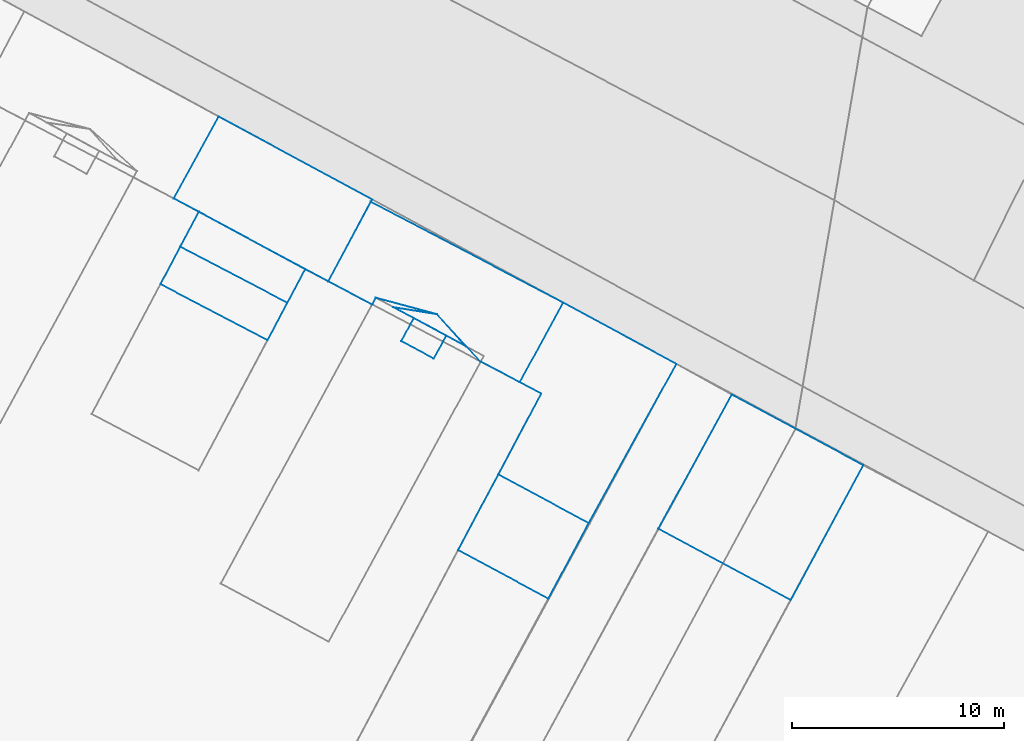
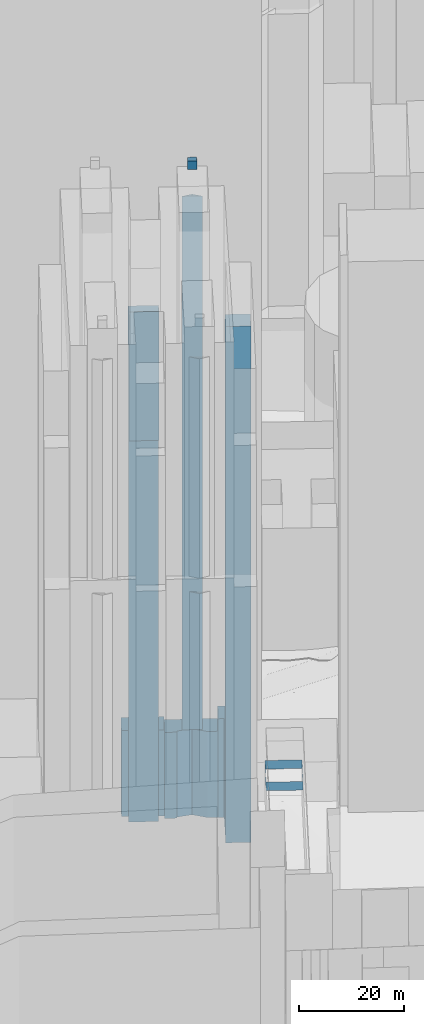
# Not in any storey, part 21 of 76: 9 walls.
"""IFC2X3 model written with IfcOpenShell, lengths in metres."""

from ifc_helpers import new_model, si_unit, frame, origin_with_axes, place, context, subcontext, project, faceted_brep, element, save


model = new_model("IFC2X3")

# Units and contexts
model_context = context("Model", 3, precision=1e-05, world=origin_with_axes())
body_context = subcontext(model_context, "Body", "Model", "MODEL_VIEW")
ifc_project = project(units=[si_unit("AREAUNIT", "SQUARE_METRE"), si_unit("LENGTHUNIT", "METRE")], contexts=[model_context])

# Walls
wall_1_placement = place(None, frame((119.9102886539, 165.3278186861, 111.6038647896), z_axis=(0.0, 0.0, 1.0), x_axis=(1.0, 0.0, 0.0)))
element("IfcWall", 1, at=wall_1_placement, Name="Mur 0", context=body_context, shape_type="Brep", body=[
    faceted_brep([(5.0364911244, -2.6393368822, 30.0), (0.0, 0.0, 30.0), (5.0364911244, -2.6393368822, 0.0), (0.0, 0.0, 0.0), (5.9698792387, -0.874337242, 30.0), (5.9698792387, -0.874337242, 0.0), (0.9333889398, 1.7649989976, 30.0), (0.9333889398, 1.7649989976, 0.0)], [[[0, 1, 2]], [[2, 1, 3]], [[4, 0, 5]], [[5, 0, 2]], [[1, 6, 3]], [[3, 6, 7]], [[6, 4, 7]], [[7, 4, 5]]]),
])
wall_2_placement = place(None, frame((120.8436775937, 167.0928176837, 21.6386341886), z_axis=(0.0, 0.0, 1.0), x_axis=(1.0, 0.0, 0.0)))
element("IfcWall", 2, at=wall_2_placement, Name="Mur 0", context=body_context, shape_type="Brep", body=[
    faceted_brep([(5.0364902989, -2.6393362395, 90.0), (0.0, 0.0, 90.0), (5.0364902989, -2.6393362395, 0.0), (0.0, 0.0, 0.0), (5.8792260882, -1.0641279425, 90.0), (5.8792260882, -1.0641279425, 0.0), (0.8757243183, 1.6422044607, 90.0), (0.8757243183, 1.6422044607, 0.0)], [[[0, 1, 2]], [[2, 1, 3]], [[4, 0, 5]], [[5, 0, 2]], [[1, 6, 3]], [[3, 6, 7]], [[6, 4, 7]], [[7, 4, 5]]]),
])
wall_3_placement = place(None, frame((120.5302679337, 169.3651384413, 21.6421787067), z_axis=(0.0, 0.0, 1.0), x_axis=(1.0, 0.0, 0.0)))
element("IfcWall", 3, at=wall_3_placement, Name="Mur 0", context=body_context, shape_type="Brep", body=[
    faceted_brep([(7.2712718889, -3.9012342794, 20.0), (0.0, 0.0, 20.0), (7.2712718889, -3.9012342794, 0.0), (0.0, 0.0, 0.0), (9.3368747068, -0.0469587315, 20.0), (9.3368747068, -0.0469587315, 0.0), (2.1162476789, 3.8548618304, 20.0), (2.1162476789, 3.8548618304, 0.0)], [[[0, 1, 2]], [[2, 1, 3]], [[4, 0, 5]], [[5, 0, 2]], [[1, 6, 3]], [[3, 6, 7]], [[6, 4, 7]], [[7, 4, 5]]]),
])
wall_4_placement = place(None, frame((127.8015398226, 165.4639041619, 21.0444509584), z_axis=(0.0, 0.0, 1.0), x_axis=(1.0, 0.0, 0.0)))
element("IfcWall", 4, at=wall_4_placement, Name="Mur 0", context=body_context, shape_type="Brep", body=[
    faceted_brep([(2.0724819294, -1.0972490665, 20.0), (0.0, 0.0, 20.0), (2.0724819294, -1.0972490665, 0.0), (0.0, 0.0, 0.0), (2.2459900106, -0.7732678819, 20.0), (2.2459900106, -0.7732678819, 0.0), (5.12513906, -1.5502808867, 20.0), (5.12513906, -1.5502808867, 0.0), (7.1770165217, -3.7801977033, 20.0), (7.1770165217, -3.7801977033, 0.0), (9.0200620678, -4.746883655, 20.0), (9.0200620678, -4.746883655, 0.0), (11.0616303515, -1.0039073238, 20.0), (11.0616303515, -1.0039073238, 0.0), (2.0078098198, 3.7425815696, 20.0), (2.0078098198, 3.7425815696, 0.0)], [[[0, 1, 2]], [[2, 1, 3]], [[4, 0, 5]], [[5, 0, 2]], [[6, 4, 7]], [[7, 4, 5]], [[8, 6, 9]], [[9, 6, 7]], [[10, 8, 11]], [[11, 8, 9]], [[12, 10, 13]], [[13, 10, 11]], [[1, 14, 3]], [[3, 14, 15]], [[14, 12, 15]], [[15, 12, 13]]]),
])
wall_5_placement = place(None, frame((130.8715359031, 164.2450175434, 41.2941403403), z_axis=(0.0, 0.0, 1.0), x_axis=(1.0, 0.0, 0.0)))
element("IfcWall", 5, at=wall_5_placement, Name="Mur 0", context=body_context, shape_type="Brep", body=[
    faceted_brep([(0.9598263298, -0.5106541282, 124.0), (0.0, 0.0, 124.0), (0.9598263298, -0.5106541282, 0.0), (0.0, 0.0, 0.0), (3.4234050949, -1.8476075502, 124.0), (3.4234050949, -1.8476075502, 0.0), (2.0551429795, -0.3313942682, 124.0), (2.0551429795, -0.3313942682, 0.0)], [[[0, 1, 2]], [[2, 1, 3]], [[4, 0, 5]], [[5, 0, 2]], [[1, 6, 3]], [[3, 6, 7]], [[6, 4, 7]], [[7, 4, 5]]]),
])
wall_6_placement = place(None, frame((131.2446046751, 162.6506276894, 172.3367242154), z_axis=(0.0, 0.0, 1.0), x_axis=(1.0, 0.0, 0.0)))
element("IfcWall", 6, at=wall_6_placement, Name="Mur 0", context=body_context, shape_type="Brep", body=[
    faceted_brep([(1.5290734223, -0.8260055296, 2.0), (0.0, 0.0, 2.0), (1.5290734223, -0.8260055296, 0.0), (0.0, 0.0, 0.0), (2.1158308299, 0.2577303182, 2.0), (2.1158308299, 0.2577303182, 0.0), (0.5867575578, 1.0837357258, 2.0), (0.5867575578, 1.0837357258, 0.0)], [[[0, 1, 2]], [[2, 1, 3]], [[4, 0, 5]], [[5, 0, 2]], [[1, 6, 3]], [[3, 6, 7]], [[6, 4, 7]], [[7, 4, 5]]]),
])
wall_7_placement = place(None, frame((133.9167055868, 152.8117715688, 20.9084652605), z_axis=(0.0, 0.0, 1.0), x_axis=(1.0, 0.0, 0.0)))
element("IfcWall", 7, at=wall_7_placement, Name="Mur 0", context=body_context, shape_type="Brep", body=[
    faceted_brep([(4.2472901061, -2.2821233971, 120.0), (0.0, 0.0, 120.0), (4.2472901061, -2.2821233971, 0.0), (0.0, 0.0, 0.0), (6.1475666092, 1.270473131, 120.0), (6.1475666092, 1.270473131, 0.0), (1.8917085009, 3.563598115, 120.0), (1.8917085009, 3.563598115, 0.0)], [[[0, 1, 2]], [[2, 1, 3]], [[4, 0, 5]], [[5, 0, 2]], [[1, 6, 3]], [[3, 6, 7]], [[6, 4, 7]], [[7, 4, 5]]]),
])
wall_8_placement = place(None, frame((135.8084140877, 156.3753696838, 20.9336598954), z_axis=(0.0, 0.0, 1.0), x_axis=(1.0, 0.0, 0.0)))
element("IfcWall", 8, at=wall_8_placement, Name="Mur 0", context=body_context, shape_type="Brep", body=[
    faceted_brep([(4.2558581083, -2.293124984, 23.0), (0.0, 0.0, 23.0), (4.2558581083, -2.293124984, 0.0), (0.0, 0.0, 0.0), (8.3810662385, 5.2044211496, 23.0), (8.3810662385, 5.2044211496, 0.0), (3.0547560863, 8.0846271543, 23.0), (3.0547560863, 8.0846271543, 0.0), (1.0131878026, 4.3416508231, 23.0), (1.0131878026, 4.3416508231, 0.0), (2.0239153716, 3.8093843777, 23.0), (2.0239153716, 3.8093843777, 0.0)], [[[0, 1, 2]], [[2, 1, 3]], [[4, 0, 5]], [[5, 0, 2]], [[6, 4, 7]], [[7, 4, 5]], [[8, 6, 9]], [[9, 6, 7]], [[1, 10, 3]], [[3, 10, 11]], [[10, 8, 11]], [[11, 8, 9]]]),
])
wall_9_placement = place(None, frame((143.3426323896, 153.8205779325, 29.1035144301), z_axis=(0.0, 0.0, 1.0), x_axis=(1.0, 0.0, 0.0)))
element("IfcWall", 9, at=wall_9_placement, Name="Mur 0", context=body_context, shape_type="Brep", body=[
    faceted_brep([(6.235119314, -3.3581409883, 2.0), (0.0, 0.0, 2.0), (6.235119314, -3.3581409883, 0.0), (0.0, 0.0, 0.0), (9.6477332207, 2.9875971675, 2.0), (9.6477332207, 2.9875971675, 0.0), (3.4552064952, 6.3129234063, 2.0), (3.4552064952, 6.3129234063, 0.0)], [[[0, 1, 2]], [[2, 1, 3]], [[4, 0, 5]], [[5, 0, 2]], [[1, 6, 3]], [[3, 6, 7]], [[6, 4, 7]], [[7, 4, 5]]]),
])

save(model, "model.ifc")
